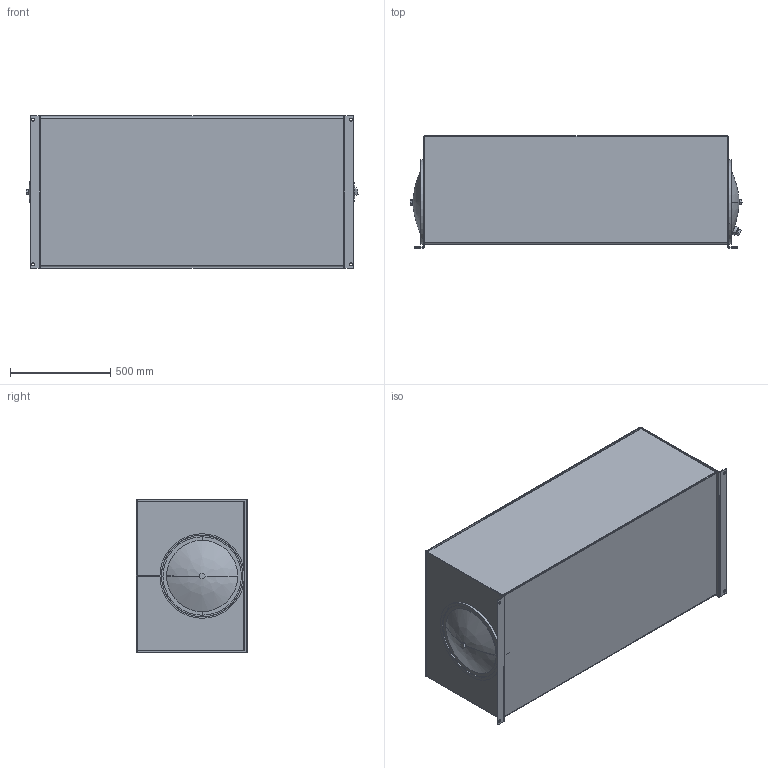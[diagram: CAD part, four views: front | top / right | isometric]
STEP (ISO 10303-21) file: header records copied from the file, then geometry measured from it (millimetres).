
FILE_DESCRIPTION (( 'STEP AP214' ), '1' );
FILE_NAME ('TH-150.STEP', '2026-04-22T18:43:11', ( '' ), ( '' ), 'SwSTEP 2.0', 'SolidWorks 2026', '' );
FILE_SCHEMA (( 'AUTOMOTIVE_DESIGN' ));
Length unit declared in the file: inch
Products named in the file (13): 16.00 END COVER WITH DRAIN; TH-150-TOP; TH-150-BDY; TL-ECD-16; DRAIN; CRUSH WASHER; 0.625 - 11 BAFFLE NUT; 16.00 END COVER; 0.625 - 11 HEX BOLT; TL-EC-16; TH-150-BFL; 16.00 GASKET; TH-150
Assembly tree (16 placements, depth 3):
  TH-150
    TH-150-TOP
    TH-150-BDY
    TH-150-BFL
    TL-ECD-16
      16.00 GASKET
      CRUSH WASHER
      0.625 - 11 HEX BOLT
      0.625 - 11 BAFFLE NUT
      16.00 END COVER WITH DRAIN
      DRAIN
    TL-EC-16
      16.00 END COVER
      16.00 GASKET
      CRUSH WASHER
      0.625 - 11 HEX BOLT
      0.625 - 11 BAFFLE NUT
Bounding box: 1658.61 x 558.8 x 762 mm (x, y, z)
Volume: 22445629.8 mm3; surface area: 11601669.3 mm2
Topology: 15 solids, 15 shells, 236 faces, 541 edges, 342 vertices
Faces by surface type: plane 124, cylinder 94, cone 10, bspline 8
Entity records: 6410 total; most frequent: CARTESIAN_POINT 1291, DIRECTION 1045, ORIENTED_EDGE 914, EDGE_CURVE 457, AXIS2_PLACEMENT_3D 390, VERTEX_POINT 286, LINE 265, VECTOR 265
